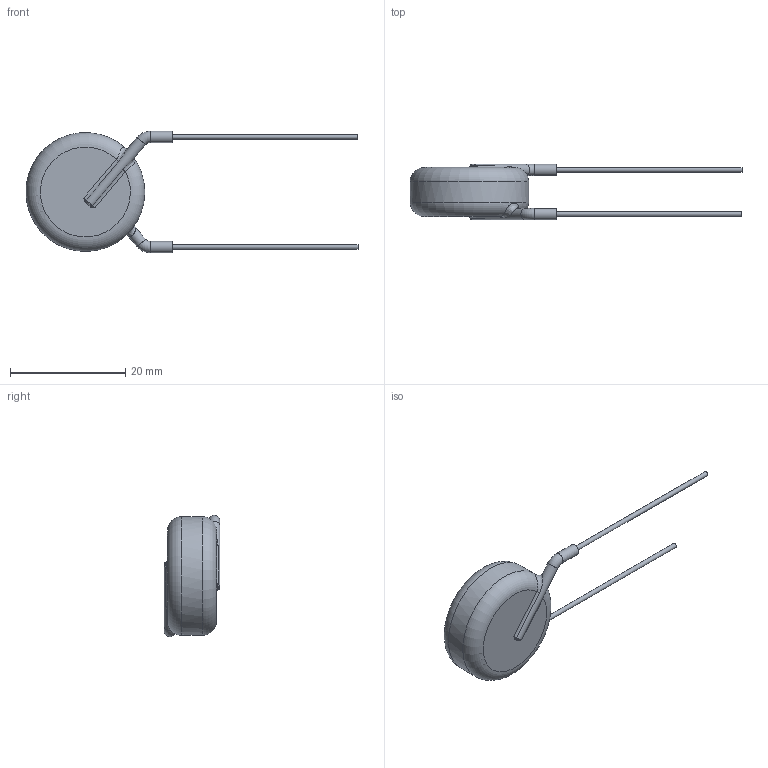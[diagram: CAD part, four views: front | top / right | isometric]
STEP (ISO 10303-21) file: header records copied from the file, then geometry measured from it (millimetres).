
FILE_DESCRIPTION((''),'2;1');
FILE_NAME('I:\Marketing\M6t1\3D-Models\Zchng-Werk-3\Upload for homepage\Ceramite\T3M-15kV\615R150GATT50\615R150GATT50.stp','2015-08-28T11:57:54',(''),(''),'Autodesk Inventor 2013','Autodesk Inventor 2013','');
FILE_SCHEMA(('AUTOMOTIVE_DESIGN { 1 0 10303 214 1 1 1 1 }'));
Length unit declared in the file: centimetre
Products named in the file (1): 615R150GATT50
Bounding box: 57.6 x 9.65 x 21.05 mm (x, y, z)
Volume: 2779.6 mm3; surface area: 1357.2 mm2
Topology: 1 solids, 1 shells, 41 faces, 92 edges, 51 vertices
Faces by surface type: cylinder 13, bspline 10, torus 10, plane 8
Full cylindrical faces by diameter (mm): 0.81 x2, 1.95 x4, 20.6 x1
Entity records: 1515 total; most frequent: CARTESIAN_POINT 682, DIRECTION 152, ORIENTED_EDGE 140, AXIS2_PLACEMENT_3D 70, EDGE_CURVE 70, EDGE_LOOP 54, VERTEX_POINT 44, STYLED_ITEM 42
